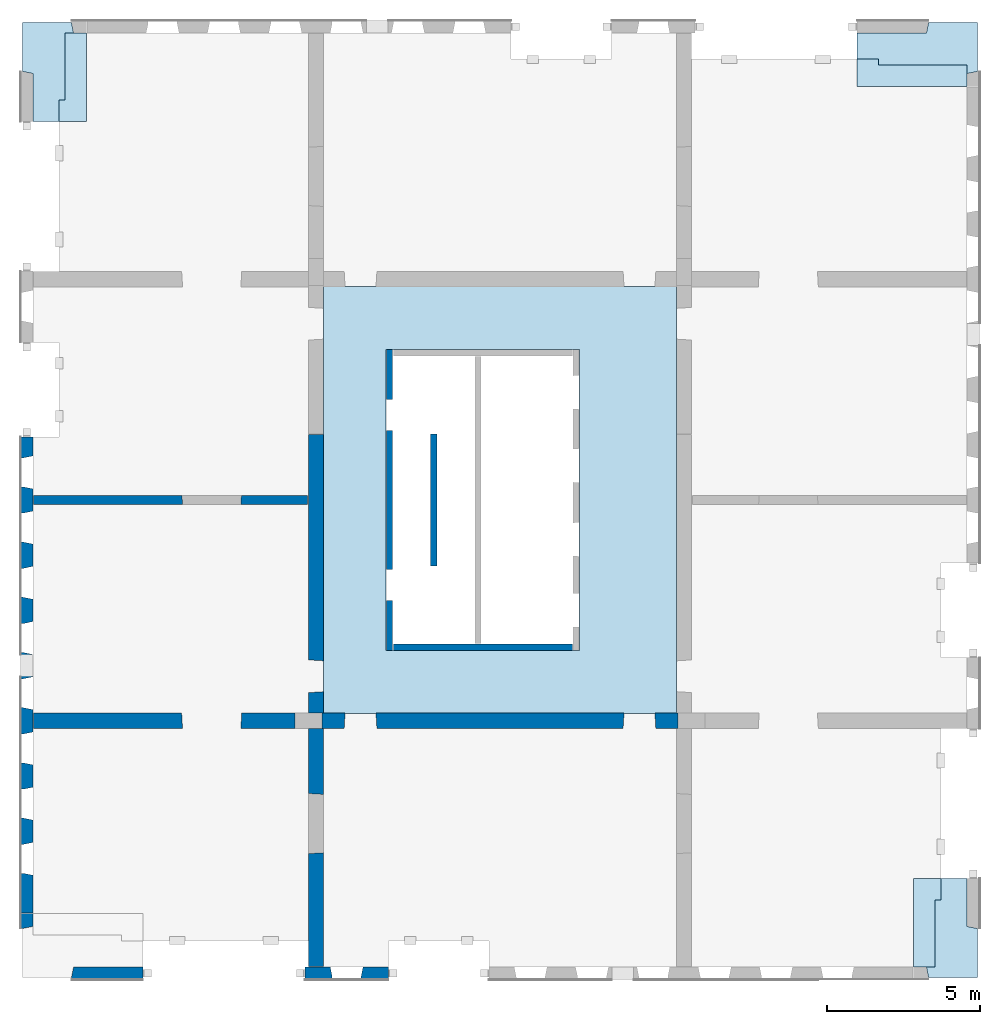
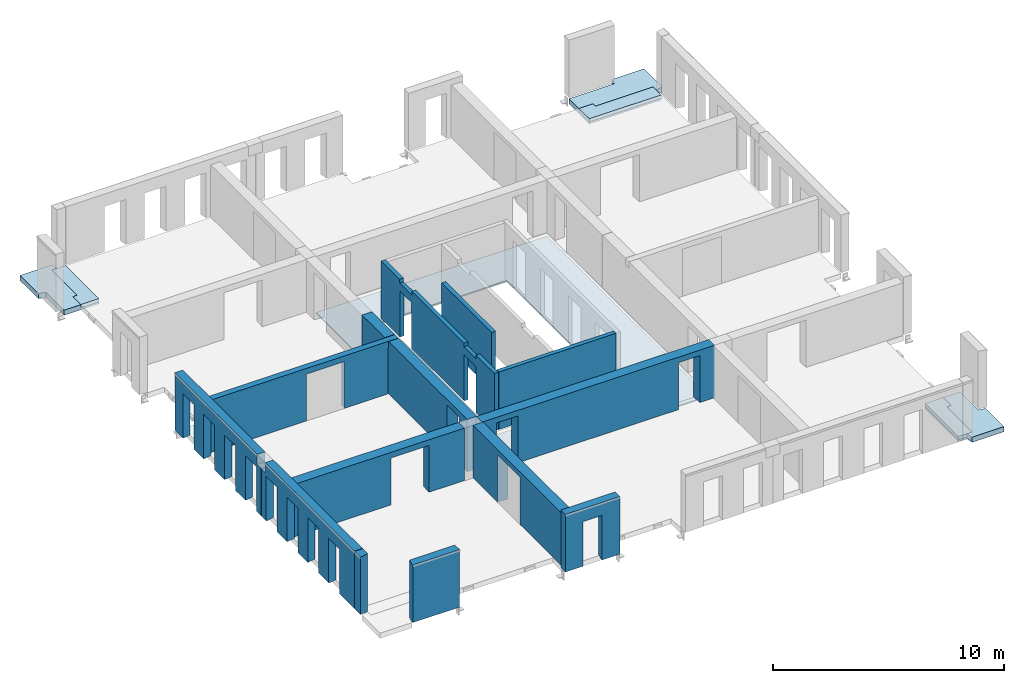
# One storey, part 2 of 5: 13 walls, 7 slabs, 26 openings.
"""IFC2X3 building model written with IfcOpenShell, lengths in millimetres."""

from ifc_helpers import new_model, entity, si_unit, converted_unit, derived_unit, direction, frame, frame_2d, origin, origin_2d_with_axis, place, context, subcontext, project, spatial, polyline, rectangle, outline, extrude, faceted_brep, material, layer, layer_set, layer_usage, type_object, element, save


model = new_model("IFC2X3")

# Units and contexts
model_context = context("Model", 3, precision=0.01, world=origin(), true_north=direction((6.12303176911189e-17, 1.0)))
body_context = subcontext(model_context, "Body", "Model", "MODEL_VIEW")
ifc_project = project(units=[si_unit("LENGTHUNIT", "METRE", prefix="MILLI"), si_unit("AREAUNIT", "SQUARE_METRE"), si_unit("VOLUMEUNIT", "CUBIC_METRE"), converted_unit("PLANEANGLEUNIT", "DEGREE", entity("IfcRatioMeasure", 0.0174532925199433), si_unit("PLANEANGLEUNIT", "RADIAN"), dimensions=[0, 0, 0, 0, 0, 0, 0]), si_unit("MASSUNIT", "GRAM", prefix="KILO"), derived_unit("MASSDENSITYUNIT", [(si_unit("MASSUNIT", "GRAM", prefix="KILO"), 1), (si_unit("LENGTHUNIT", "METRE"), -3)]), si_unit("TIMEUNIT", "SECOND"), si_unit("FREQUENCYUNIT", "HERTZ"), si_unit("THERMODYNAMICTEMPERATUREUNIT", "DEGREE_CELSIUS"), derived_unit("THERMALTRANSMITTANCEUNIT", [(si_unit("MASSUNIT", "GRAM", prefix="KILO"), 1), (si_unit("THERMODYNAMICTEMPERATUREUNIT", "KELVIN"), -1), (si_unit("TIMEUNIT", "SECOND"), -3)]), derived_unit("VOLUMETRICFLOWRATEUNIT", [(si_unit("LENGTHUNIT", "METRE"), 3), (si_unit("TIMEUNIT", "SECOND"), -1)]), si_unit("ELECTRICCURRENTUNIT", "AMPERE"), si_unit("ELECTRICVOLTAGEUNIT", "VOLT"), si_unit("POWERUNIT", "WATT"), si_unit("FORCEUNIT", "NEWTON", prefix="KILO"), si_unit("ILLUMINANCEUNIT", "LUX"), si_unit("LUMINOUSFLUXUNIT", "LUMEN"), si_unit("LUMINOUSINTENSITYUNIT", "CANDELA"), derived_unit("USERDEFINED", [(si_unit("MASSUNIT", "GRAM", prefix="KILO"), -1), (si_unit("LENGTHUNIT", "METRE"), -2), (si_unit("TIMEUNIT", "SECOND"), 3), (si_unit("LUMINOUSFLUXUNIT", "LUMEN"), 1)]), derived_unit("LINEARVELOCITYUNIT", [(si_unit("LENGTHUNIT", "METRE"), 1), (si_unit("TIMEUNIT", "SECOND"), -1)]), si_unit("PRESSUREUNIT", "PASCAL"), derived_unit("USERDEFINED", [(si_unit("LENGTHUNIT", "METRE"), -2), (si_unit("MASSUNIT", "GRAM", prefix="KILO"), 1), (si_unit("TIMEUNIT", "SECOND"), -2)])], contexts=[model_context])

# Site, building, storey
site_placement = place(None, origin())
site = spatial("IfcSite", under=ifc_project, at=site_placement, Name="Default", CompositionType="ELEMENT")
building_placement = place(site_placement, origin())
building = spatial("IfcBuilding", under=site, at=building_placement, Name="niet gebruiken", CompositionType="ELEMENT")
storey_placement = place(building_placement, frame((0.0, 0.0, 27180.0)))
storey = spatial("IfcBuildingStorey", under=building, at=storey_placement, Name="08 achtste verdieping", CompositionType="ELEMENT", Elevation=27180.0)

# Slabs
ifc_material_1 = material(Name="NLRS_f2_beton prefab")
ifc_layer_1 = layer(ifc_material_1, 270.0)
ifc_layer_set_1 = layer_set([ifc_layer_1], Name="Floor:NLRS_23.22_FL_beton prefab d=270 3D element_gen")
ifc_layer_usage_1 = layer_usage(ifc_layer_set_1, "AXIS3", "POSITIVE", 0.0)
slab_1_placement = place(storey_placement, origin())
element("IfcSlab", 1, at=slab_1_placement, inside=storey, material=ifc_layer_usage_1, Name="Floor:NLRS_23.22_FL_beton prefab d=270 3D element_gen", ObjectType="Floor:NLRS_23.22_FL_beton prefab d=270 3D element_gen", PredefinedType="LANDING", context=body_context, shape_type="SweptSolid", body=[
    extrude(outline(polyline([(-962.018416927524, -1072.98158307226), (1927.98158307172, -1072.98158307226), (1927.98158307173, 677.01841692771), (362.981583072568, 677.018416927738), (295.128918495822, 1010.01841692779), (-1295.01841692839, 1010.01841692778), (-1295.0184169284, -580.128918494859), (-962.018416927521, -647.981583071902), (-962.018416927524, -1072.98158307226)])), frame((156302.981583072, 3232.01841692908, -90.0), z_axis=(0.0, 0.0, -1.0), x_axis=(0.0, 1.0, 0.0)), (0.0, 0.0, 1.0), 269.999999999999),
])
ifc_layer_usage_2 = layer_usage(ifc_layer_set_1, "AXIS3", "POSITIVE", 0.0)
slab_2_placement = place(storey_placement, origin())
element("IfcSlab", 2, at=slab_2_placement, inside=storey, material=ifc_layer_usage_2, Name="Floor:NLRS_23.22_FL_beton prefab d=270 3D element_gen", ObjectType="Floor:NLRS_23.22_FL_beton prefab d=270 3D element_gen", PredefinedType="LANDING", context=body_context, shape_type="SweptSolid", body=[
    extrude(outline(polyline([(-295.128918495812, -1010.0184169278), (1295.0184169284, -1010.0184169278), (1295.01841692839, 580.128918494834), (962.018416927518, 647.981583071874), (962.018416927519, 1072.98158307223), (-1927.98158307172, 1072.98158307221), (-1927.98158307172, -677.018416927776), (-362.981583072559, -677.018416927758), (-295.128918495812, -1010.0184169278)])), frame((127197.018416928, 31767.9815830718, -90.0), z_axis=(0.0, 0.0, -1.0), x_axis=(0.0, 1.0, 0.0)), (0.0, 0.0, 1.0), 269.999999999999),
])
ifc_layer_usage_3 = layer_usage(ifc_layer_set_1, "AXIS3", "POSITIVE", 0.0)
slab_3_placement = place(storey_placement, origin())
element("IfcSlab", 3, at=slab_3_placement, inside=storey, material=ifc_layer_usage_3, Name="Floor:NLRS_23.22_FL_beton prefab d=270 3D element_gen", ObjectType="Floor:NLRS_23.22_FL_beton prefab d=270 3D element_gen", PredefinedType="LANDING", context=body_context, shape_type="SweptSolid", body=[
    extrude(outline(polyline([(-1072.981583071, -2452.9815830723), (677.018416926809, -2452.9815830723), (677.018416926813, -187.981583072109), (1010.01841692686, -120.12891849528), (1010.01841692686, 1470.01841692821), (-580.128918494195, 1470.01841692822), (-647.981583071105, 1137.01841692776), (-1072.981583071, 1137.01841692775), (-1072.981583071, -2452.9815830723)])), frame((155842.981583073, 32052.9815830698, -90.0), z_axis=(0.0, 0.0, -1.0), x_axis=(0.0, 1.0, 0.0)), (0.0, 0.0, 1.0), 269.999999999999),
])
ifc_material_2 = material(Name="NLRS_f2_beton ihwg")
ifc_layer_2 = layer(ifc_material_2, 170.0)
ifc_layer_set_2 = layer_set([ifc_layer_2], Name="Floor:NLRS_23.21_FL_beton ihwg d=170_gen")
ifc_layer_usage_4 = layer_usage(ifc_layer_set_2, "AXIS3", "POSITIVE", 0.0)
slab_4_placement = place(storey_placement, origin())
element("IfcSlab", 4, at=slab_4_placement, inside=storey, material=ifc_layer_usage_4, Name="Floor:NLRS_23.21_FL_beton ihwg d=170_gen", ObjectType="Floor:NLRS_23.21_FL_beton ihwg d=170_gen", PredefinedType="FLOOR", context=body_context, shape_type="SweptSolid", body=[
    extrude(outline(polyline([(-533.333333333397, -1430.0), (366.666666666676, -1430.0), (366.666666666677, -730.0), (166.666666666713, -730.0), (166.666666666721, 2160.0), (-533.333333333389, 2160.0), (-533.333333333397, -1430.0)])), frame((154820.0, 31513.3333333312, -90.0), z_axis=(0.0, 0.0, -1.0), x_axis=(0.0, 1.0, 0.0)), (0.0, 0.0, 1.0), 170.0),
])
ifc_layer_usage_5 = layer_usage(ifc_layer_set_2, "AXIS3", "POSITIVE", 0.0)
slab_5_placement = place(storey_placement, origin())
element("IfcSlab", 5, at=slab_5_placement, inside=storey, material=ifc_layer_usage_5, Name="Floor:NLRS_23.21_FL_beton ihwg d=170_gen", ObjectType="Floor:NLRS_23.21_FL_beton ihwg d=170_gen", PredefinedType="FLOOR", context=body_context, shape_type="SweptSolid", body=[
    extrude(outline(polyline([(-1693.33333333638, -533.333333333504), (1196.66666666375, -533.333333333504), (1196.66666666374, 366.666666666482), (496.666666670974, 366.666666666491), (496.666666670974, 166.666666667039), (-1693.33333333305, 166.66666666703), (-1693.33333333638, -533.333333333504)])), frame((155763.333333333, 3963.33333333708, -90.0), z_axis=(0.0, 0.0, -1.0), x_axis=(0.0, 1.0, 0.0)), (0.0, 0.0, 1.0), 170.0),
])
ifc_layer_usage_6 = layer_usage(ifc_layer_set_2, "AXIS3", "POSITIVE", 0.0)
slab_6_placement = place(storey_placement, origin())
element("IfcSlab", 6, at=slab_6_placement, inside=storey, material=ifc_layer_usage_6, Name="Floor:NLRS_23.21_FL_beton ihwg d=170_gen", ObjectType="Floor:NLRS_23.21_FL_beton ihwg d=170_gen", PredefinedType="FLOOR", context=body_context, shape_type="SweptSolid", body=[
    extrude(outline(polyline([(-1196.66666666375, -366.666666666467), (-496.666666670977, -366.666666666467), (-496.666666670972, -166.666666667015), (1693.33333333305, -166.666666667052), (1693.33333333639, 533.333333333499), (-1196.66666666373, 533.333333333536), (-1196.66666666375, -366.666666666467)])), frame((127736.666666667, 31036.6666666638, -90.0), z_axis=(0.0, 0.0, -1.0), x_axis=(0.0, 1.0, 0.0)), (0.0, 0.0, 1.0), 170.0),
])

# Slab, opening
ifc_layer_3 = layer(ifc_material_1, 60.0)
ifc_layer_set_3 = layer_set([ifc_layer_3], Name="Floor:NLRS_23.21_FL_breedplaat d=60_gen")
ifc_layer_usage_7 = layer_usage(ifc_layer_set_3, "AXIS3", "POSITIVE", 0.0)
slab_7_placement = place(storey_placement, frame((135990.0, 10540.0, -320.0)))
slab_7 = element("IfcSlab", 7, at=slab_7_placement, inside=storey, material=ifc_layer_usage_7, Name="Floor:NLRS_23.21_FL_breedplaat d=60_gen", ObjectType="Floor:NLRS_23.21_FL_breedplaat d=60_gen", PredefinedType="FLOOR", context=body_context, shape_type="SweptSolid", body=[
    extrude(rectangle(XDim=13919.9999999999, YDim=11520.0, at=frame_2d((0.0, 0.0), x_axis=(0.0, -1.0))), frame((5760.0, 6960.0, 60.0), z_axis=(0.0, 0.0, -1.0), x_axis=(-1.0, 0.0, 0.0)), (0.0, 0.0, 1.0), 59.9999999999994),
])
opening_1_placement = place(slab_7_placement, frame((5200.0, 6960.0, 60.0)))
element("IfcOpeningElement", 8, at=opening_1_placement, cuts=slab_7, Name="Floor:NLRS_23.21_FL_breedplaat d=60_gen:2", ObjectType="Opening", context=body_context, shape_type="SweptSolid", body=[
    extrude(rectangle(XDim=9820.0, YDim=6299.99999999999, at=origin_2d_with_axis()), frame((0.0, 0.0, 0.0), z_axis=(0.0, 0.0, -1.0), x_axis=(0.0, -1.0, 0.0)), (0.0, 0.0, 1.0), 59.9999999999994),
])

# Wall, openings
ifc_layer_4 = layer(ifc_material_1, 200.0)
ifc_layer_set_4 = layer_set([ifc_layer_4], Name="Basic Wall:NLRS_22.21_WA_beton prefab d=200_gen")
ifc_layer_usage_8 = layer_usage(ifc_layer_set_4, "AXIS2", "NEGATIVE", 100.0)
wall_type_1 = type_object("IfcWallType", Name="Basic Wall:NLRS_22.21_WA_beton prefab d=200_gen", PredefinedType="STANDARD", material=ifc_layer_set_4)
wall_1_placement = place(storey_placement, frame((138150.0, 22400.0, -50.0), z_axis=(0.0, 0.0, 1.0), x_axis=(0.0, -1.0, 0.0)))
wall_1 = element("IfcWallStandardCase", 9, at=wall_1_placement, inside=storey, type_object=wall_type_1, material=ifc_layer_usage_8, Name="Basic Wall:NLRS_22.21_WA_beton prefab d=200_gen", ObjectType="Basic Wall:NLRS_22.21_WA_beton prefab d=200_gen", context=body_context, shape_type="SweptSolid", body=[
    extrude(rectangle(XDim=9800.0, YDim=199.999999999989, at=frame_2d((4900.0, 3.76587649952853e-13), x_axis=(-1.0, 0.0))), origin(), (0.0, 0.0, 1.0), 3039.99999999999),
])
opening_2_placement = place(wall_1_placement, origin())
element("IfcOpeningElement", 10, at=opening_2_placement, cuts=wall_1, Name="Basic Wall:NLRS_22.21_WA_beton prefab d=200_gen", ObjectType="Opening", context=body_context, shape_type="SweptSolid", body=[
    extrude(rectangle(XDim=199.999999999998, YDim=1044.0, at=origin_2d_with_axis()), frame((7672.0, -100.0, 2940.0), z_axis=(0.0, 1.0, 0.0), x_axis=(0.0, 0.0, -1.0)), (0.0, 0.0, 1.0), 199.999999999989),
])
opening_3_placement = place(wall_1_placement, origin())
element("IfcOpeningElement", 11, at=opening_3_placement, cuts=wall_1, Name="Basic Wall:NLRS_22.21_WA_beton prefab d=200_gen", ObjectType="Opening", context=body_context, shape_type="SweptSolid", body=[
    extrude(rectangle(XDim=199.999999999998, YDim=1044.0, at=frame_2d((0.0, 2.1600499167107e-12), x_axis=(1.0, 0.0))), frame((2128.0, -100.0, 2940.0), z_axis=(0.0, 1.0, 0.0), x_axis=(0.0, 0.0, -1.0)), (0.0, 0.0, 1.0), 199.999999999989),
])
opening_4_placement = place(wall_1_placement, origin())
element("IfcOpeningElement", 12, at=opening_4_placement, cuts=wall_1, Name="Basic Wall:NLRS_22.21_WA_beton prefab d=200_gen", ObjectType="Opening", context=body_context, shape_type="SweptSolid", body=[
    extrude(rectangle(XDim=2435.00000000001, YDim=1015.99999999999, at=frame_2d((0.0, 1.10844666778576e-12), x_axis=(1.0, 0.0))), frame((7672.0, -100.0, 1217.50000000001), z_axis=(0.0, 1.0, 0.0), x_axis=(0.0, 0.0, -1.0)), (0.0, 0.0, 1.0), 199.999999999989),
])
opening_5_placement = place(wall_1_placement, origin())
element("IfcOpeningElement", 13, at=opening_5_placement, cuts=wall_1, Name="Basic Wall:NLRS_22.21_WA_beton prefab d=200_gen", ObjectType="Opening", context=body_context, shape_type="SweptSolid", body=[
    extrude(rectangle(XDim=2435.00000000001, YDim=1015.99999999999, at=frame_2d((0.0, -2.18847162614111e-12), x_axis=(1.0, 0.0))), frame((2128.0, -100.0, 1217.50000000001), z_axis=(0.0, 1.0, 0.0), x_axis=(0.0, 0.0, -1.0)), (0.0, 0.0, 1.0), 199.999999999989),
])

# Walls
ifc_layer_usage_9 = layer_usage(ifc_layer_set_4, "AXIS2", "NEGATIVE", 100.0)
wall_2_placement = place(storey_placement, frame((139590.0, 19660.0, -50.0), z_axis=(0.0, 0.0, 1.0), x_axis=(0.0, -1.0, 0.0)))
element("IfcWallStandardCase", 14, at=wall_2_placement, inside=storey, type_object=wall_type_1, material=ifc_layer_usage_9, Name="Basic Wall:NLRS_22.21_WA_beton prefab d=200_gen", ObjectType="Basic Wall:NLRS_22.21_WA_beton prefab d=200_gen", context=body_context, shape_type="SweptSolid", body=[
    extrude(rectangle(XDim=4320.00000000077, YDim=199.999999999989, at=frame_2d((2160.00000000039, 0.0), x_axis=(-1.0, 0.0))), origin(), (0.0, 0.0, 1.0), 3039.99999999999),
])
ifc_layer_usage_10 = layer_usage(ifc_layer_set_4, "AXIS2", "NEGATIVE", 100.0)
wall_3_placement = place(storey_placement, frame((138270.0, 12700.0, -50.0)))
element("IfcWallStandardCase", 15, at=wall_3_placement, inside=storey, type_object=wall_type_1, material=ifc_layer_usage_10, Name="Basic Wall:NLRS_22.21_WA_beton prefab d=200_gen", ObjectType="Basic Wall:NLRS_22.21_WA_beton prefab d=200_gen", context=body_context, shape_type="SweptSolid", body=[
    extrude(rectangle(XDim=5839.99999999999, YDim=199.999999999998, at=frame_2d((2919.99999999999, -6.82121026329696e-13), x_axis=(-1.0, 0.0))), origin(), (0.0, 0.0, 1.0), 3039.99999999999),
])

# Wall, openings
ifc_layer_5 = layer(ifc_material_1, 300.0)
ifc_layer_set_5 = layer_set([ifc_layer_5], Name="Basic Wall:NLRS_22.21_WA_beton prefab d=300_gen")
ifc_layer_usage_11 = layer_usage(ifc_layer_set_5, "AXIS2", "NEGATIVE", 150.0)
wall_type_2 = type_object("IfcWallType", Name="Basic Wall:NLRS_22.21_WA_beton prefab d=300_gen", PredefinedType="STANDARD", material=ifc_layer_set_5)
wall_4_placement = place(storey_placement, frame((126540.0, 17500.0, -70.0)))
wall_4 = element("IfcWallStandardCase", 16, at=wall_4_placement, inside=storey, type_object=wall_type_2, material=ifc_layer_usage_11, Name="Basic Wall:NLRS_22.21_WA_beton prefab d=300_gen", ObjectType="Basic Wall:NLRS_22.21_WA_beton prefab d=300_gen", context=body_context, shape_type="SweptSolid", body=[
    extrude(rectangle(XDim=9459.99999999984, YDim=300.000000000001, at=frame_2d((4729.99999999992, -1.4210854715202e-14), x_axis=(-1.0, 0.0))), origin(), (0.0, 0.0, 1.0), 2770.0),
])
opening_6_placement = place(wall_4_placement, frame((4842.0, -150.0, 0.0)))
element("IfcOpeningElement", 17, at=opening_6_placement, cuts=wall_4, Name="Basic Wall:NLRS_22.21_WA_beton prefab d=300_gen", ObjectType="Opening", context=body_context, shape_type="Brep", body=[
    faceted_brep([(1918.0, 0.0, 2470.0), (18.0, 0.0, 2470.0), (18.0, 0.0, 0.0), (1918.0, 0.0, 0.0), (1936.0, 300.0, 2488.0), (1936.0, 300.0, 0.0), (0.0, 300.0, 0.0), (0.0, 300.0, 2488.0)], [[[0, 1, 2, 3]], [[4, 5, 6, 7]], [[4, 7, 1, 0]], [[7, 6, 2, 1]], [[6, 5, 3, 2]], [[5, 4, 0, 3]]]),
])
opening_7_placement = place(wall_4_placement, origin())
element("IfcOpeningElement", 18, at=opening_7_placement, cuts=wall_4, Name="Basic Wall:NLRS_22.21_WA_beton prefab d=300_gen", ObjectType="Opening", context=body_context, shape_type="SweptSolid", body=[
    extrude(rectangle(XDim=2440.0, YDim=520.000000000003, at=frame_2d((-8.64019966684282e-12, -2.1600499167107e-12), x_axis=(0.0, 1.0))), frame((9200.0, 150.0, 1220.0), z_axis=(0.0, -1.0, 0.0), x_axis=(1.0, 0.0, 0.0)), (0.0, 0.0, 1.0), 300.0),
])

# Wall, opening
ifc_layer_6 = layer(ifc_material_1, 400.0)
ifc_layer_set_6 = layer_set([ifc_layer_6], Name="Basic Wall:NLRS_21.21_WA_beton prefab d=400/420_gen")
ifc_layer_usage_12 = layer_usage(ifc_layer_set_6, "AXIS2", "NEGATIVE", 200.0)
wall_type_3 = type_object("IfcWallType", Name="Basic Wall:NLRS_21.21_WA_beton prefab d=400/420_gen", PredefinedType="STANDARD", material=ifc_layer_set_6)
wall_5_placement = place(storey_placement, frame((130110.0, 2070.0, -50.0), z_axis=(0.0, 0.0, 1.0), x_axis=(-1.0, 0.0, 0.0)))
wall_5 = element("IfcWallStandardCase", 19, at=wall_5_placement, inside=storey, type_object=wall_type_3, material=ifc_layer_usage_12, Name="Basic Wall:NLRS_21.21_WA_beton prefab d=400/420_gen", ObjectType="Basic Wall:NLRS_21.21_WA_beton prefab d=400/420_gen", context=body_context, shape_type="SweptSolid", body=[
    extrude(rectangle(XDim=2330.00000000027, YDim=400.0, at=frame_2d((1165.00000000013, -4.2632564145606e-14), x_axis=(-1.0, 0.0))), origin(), (0.0, 0.0, 1.0), 3040.0),
])
opening_8_placement = place(wall_5_placement, frame((2330.0, 119.0, 0.0)))
element("IfcOpeningElement", 20, at=opening_8_placement, cuts=wall_5, Name="Basic Wall:NLRS_21.21_WA_beton prefab d=400/420_gen", ObjectType="Opening", context=body_context, shape_type="Brep", body=[
    faceted_brep([(0.0, -319.0, 3040.0), (0.0, 0.0, 3040.0), (-65.0, -319.0, 3040.0), (0.0, -319.0, 0.0), (-65.0, -319.0, 0.0), (0.0, 0.0, 0.0)], [[[0, 1, 2]], [[3, 4, 5]], [[2, 4, 3, 0]], [[0, 3, 5, 1]], [[1, 5, 4, 2]]]),
])

ifc_layer_usage_13 = layer_usage(ifc_layer_set_6, "AXIS2", "NEGATIVE", 200.0)
wall_6_placement = place(storey_placement, frame((126320.0, 3530.0, -50.0), z_axis=(0.0, 0.0, 1.0), x_axis=(0.0, 1.0, 0.0)))
wall_6 = element("IfcWallStandardCase", 21, at=wall_6_placement, inside=storey, type_object=wall_type_3, material=ifc_layer_usage_13, Name="Basic Wall:NLRS_21.21_WA_beton prefab d=400/420_gen", ObjectType="Basic Wall:NLRS_21.21_WA_beton prefab d=400/420_gen", context=body_context, shape_type="SweptSolid", body=[
    extrude(rectangle(XDim=490.000000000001, YDim=400.000000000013, at=frame_2d((245.0, -4.2490455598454e-12), x_axis=(-1.0, 0.0))), origin(), (0.0, 0.0, 1.0), 3040.0),
])
opening_9_placement = place(wall_6_placement, frame((0.0, 119.0, 0.0)))
element("IfcOpeningElement", 22, at=opening_9_placement, cuts=wall_6, Name="Basic Wall:NLRS_21.21_WA_beton prefab d=400/420_gen", ObjectType="Opening", context=body_context, shape_type="Brep", body=[
    faceted_brep([(0.0, -319.0, 3040.0), (65.0, -319.0, 3040.0), (0.0, 0.0, 3040.0), (0.0, -319.0, 0.0), (0.0, 0.0, 0.0), (65.0, -319.0, 0.0)], [[[0, 1, 2]], [[3, 4, 5]], [[1, 0, 3, 5]], [[0, 2, 4, 3]], [[2, 1, 5, 4]]]),
])

# Wall, openings
ifc_layer_usage_14 = layer_usage(ifc_layer_set_6, "AXIS2", "NEGATIVE", 200.0)
wall_7_placement = place(storey_placement, frame((126320.0, 4040.0, -50.0), z_axis=(0.0, 0.0, 1.0), x_axis=(0.0, 1.0, 0.0)))
wall_7 = element("IfcWallStandardCase", 23, at=wall_7_placement, inside=storey, type_object=wall_type_3, material=ifc_layer_usage_14, Name="Basic Wall:NLRS_21.21_WA_beton prefab d=400/420_gen", ObjectType="Basic Wall:NLRS_21.21_WA_beton prefab d=400/420_gen", context=body_context, shape_type="SweptSolid", body=[
    extrude(rectangle(XDim=8049.99999999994, YDim=400.000000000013, at=frame_2d((4024.99999999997, 6.19593265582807e-12), x_axis=(-1.0, 0.0))), origin(), (0.0, 0.0, 1.0), 3040.0),
])
opening_10_placement = place(wall_7_placement, frame((1225.0, 200.0, -20.0)))
element("IfcOpeningElement", 24, at=opening_10_placement, cuts=wall_7, Name="Basic Wall:NLRS_21.21_WA_beton prefab d=400/420_gen", ObjectType="Opening", context=body_context, shape_type="Brep", body=[
    faceted_brep([(0.0, -400.0, 2405.0), (0.0, -400.0, 0.0), (1070.0, -400.0, 0.0), (1070.0, -400.0, 2405.0), (1005.0, -81.0, 2370.0), (65.0, -81.0, 2370.0), (1005.0, -81.0, 0.0), (65.0, -81.0, 0.0), (65.0, 0.0, 0.0), (1005.0, 0.0, 0.0), (65.0, 0.0, 2370.0), (1005.0, 0.0, 2370.0)], [[[0, 1, 2, 3]], [[3, 4, 5, 0]], [[2, 6, 4, 3]], [[1, 7, 8, 9, 6, 2]], [[0, 5, 7, 1]], [[10, 11, 9, 8]], [[10, 5, 4, 11]], [[11, 4, 6, 9]], [[8, 7, 5, 10]]]),
])
opening_11_placement = place(wall_7_placement, frame((3025.0, 200.0, -20.0)))
element("IfcOpeningElement", 25, at=opening_11_placement, cuts=wall_7, Name="Basic Wall:NLRS_21.21_WA_beton prefab d=400/420_gen", ObjectType="Opening", context=body_context, shape_type="Brep", body=[
    faceted_brep([(0.0, -400.0, 2405.0), (0.0, -400.0, 0.0), (1070.0, -400.0, 0.0), (1070.0, -400.0, 2405.0), (1005.0, -81.0, 2370.0), (65.0, -81.0, 2370.0), (1005.0, -81.0, 0.0), (65.0, -81.0, 0.0), (65.0, 0.0, 0.0), (1005.0, 0.0, 0.0), (65.0, 0.0, 2370.0), (1005.0, 0.0, 2370.0)], [[[0, 1, 2, 3]], [[3, 4, 5, 0]], [[2, 6, 4, 3]], [[1, 7, 8, 9, 6, 2]], [[0, 5, 7, 1]], [[10, 11, 9, 8]], [[10, 5, 4, 11]], [[11, 4, 6, 9]], [[8, 7, 5, 10]]]),
])
opening_12_placement = place(wall_7_placement, frame((4825.0, 200.0, -20.0)))
element("IfcOpeningElement", 26, at=opening_12_placement, cuts=wall_7, Name="Basic Wall:NLRS_21.21_WA_beton prefab d=400/420_gen", ObjectType="Opening", context=body_context, shape_type="Brep", body=[
    faceted_brep([(0.0, -400.0, 2405.0), (0.0, -400.0, 0.0), (1070.0, -400.0, 0.0), (1070.0, -400.0, 2405.0), (1005.0, -81.0, 2370.0), (65.0, -81.0, 2370.0), (1005.0, -81.0, 0.0), (65.0, -81.0, 0.0), (65.0, 0.0, 0.0), (1005.0, 0.0, 0.0), (65.0, 0.0, 2370.0), (1005.0, 0.0, 2370.0)], [[[0, 1, 2, 3]], [[3, 4, 5, 0]], [[2, 6, 4, 3]], [[1, 7, 8, 9, 6, 2]], [[0, 5, 7, 1]], [[10, 11, 9, 8]], [[10, 5, 4, 11]], [[11, 4, 6, 9]], [[8, 7, 5, 10]]]),
])
opening_13_placement = place(wall_7_placement, frame((6625.0, 200.0, -20.0)))
element("IfcOpeningElement", 27, at=opening_13_placement, cuts=wall_7, Name="Basic Wall:NLRS_21.21_WA_beton prefab d=400/420_gen", ObjectType="Opening", context=body_context, shape_type="Brep", body=[
    faceted_brep([(0.0, -400.0, 2405.0), (0.0, -400.0, 0.0), (1070.0, -400.0, 0.0), (1070.0, -400.0, 2405.0), (1005.0, -81.0, 2370.0), (65.0, -81.0, 2370.0), (1005.0, -81.0, 0.0), (65.0, -81.0, 0.0), (65.0, 0.0, 0.0), (1005.0, 0.0, 0.0), (65.0, 0.0, 2370.0), (1005.0, 0.0, 2370.0)], [[[0, 1, 2, 3]], [[3, 4, 5, 0]], [[2, 6, 4, 3]], [[1, 7, 8, 9, 6, 2]], [[0, 5, 7, 1]], [[10, 11, 9, 8]], [[10, 5, 4, 11]], [[11, 4, 6, 9]], [[8, 7, 5, 10]]]),
])
opening_14_placement = place(wall_7_placement, origin())
element("IfcOpeningElement", 28, at=opening_14_placement, cuts=wall_7, Name="Basic Wall:NLRS_21.21_WA_beton prefab d=400/420_gen", ObjectType="Opening", context=body_context, shape_type="SweptSolid", body=[
    extrude(rectangle(XDim=535.0, YDim=344.999999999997, at=frame_2d((0.0, 1.08002495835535e-12), x_axis=(1.0, 0.0))), frame((7877.49999999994, 200.0, 2772.5), z_axis=(0.0, -1.0, 0.0), x_axis=(0.0, 0.0, 1.0)), (0.0, 0.0, 1.0), 400.0),
])

# Wall, opening
ifc_layer_usage_15 = layer_usage(ifc_layer_set_6, "AXIS2", "NEGATIVE", 200.0)
wall_8_placement = place(storey_placement, frame((138110.0, 2070.0, -50.0), z_axis=(0.0, 0.0, 1.0), x_axis=(-1.0, 0.0, 0.0)))
wall_8 = element("IfcWallStandardCase", 29, at=wall_8_placement, inside=storey, type_object=wall_type_3, material=ifc_layer_usage_15, Name="Basic Wall:NLRS_21.21_WA_beton prefab d=400/420_gen", ObjectType="Basic Wall:NLRS_21.21_WA_beton prefab d=400/420_gen", context=body_context, shape_type="SweptSolid", body=[
    extrude(rectangle(XDim=2720.00000000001, YDim=400.0, at=frame_2d((1360.0, -7.105427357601e-14), x_axis=(-1.0, 0.0))), origin(), (0.0, 0.0, 1.0), 3040.0),
])
opening_15_placement = place(wall_8_placement, frame((1895.0, 200.0, -20.0)))
element("IfcOpeningElement", 30, at=opening_15_placement, cuts=wall_8, Name="Basic Wall:NLRS_21.21_WA_beton prefab d=400/420_gen", ObjectType="Opening", context=body_context, shape_type="Brep", body=[
    faceted_brep([(-1070.0, -400.0, 2405.0), (-1070.0, -400.0, 0.0), (0.0, -400.0, 0.0), (0.0, -400.0, 2405.0), (-65.0, -81.0, 2370.0), (-1005.0, -81.0, 2370.0), (-65.0, -81.0, 0.0), (-1005.0, -81.0, 0.0), (-1005.0, 0.0, 0.0), (-65.0, 0.0, 0.0), (-1005.0, 0.0, 2370.0), (-65.0, 0.0, 2370.0)], [[[0, 1, 2, 3]], [[3, 4, 5, 0]], [[2, 6, 4, 3]], [[1, 7, 8, 9, 6, 2]], [[0, 5, 7, 1]], [[10, 11, 9, 8]], [[10, 5, 4, 11]], [[11, 4, 6, 9]], [[8, 7, 5, 10]]]),
])

# Wall, openings
ifc_layer_usage_16 = layer_usage(ifc_layer_set_6, "AXIS2", "NEGATIVE", 200.0)
wall_9_placement = place(storey_placement, frame((126320.0, 12110.0, -50.0), z_axis=(0.0, 0.0, 1.0), x_axis=(0.0, 1.0, 0.0)))
wall_9 = element("IfcWallStandardCase", 31, at=wall_9_placement, inside=storey, type_object=wall_type_3, material=ifc_layer_usage_16, Name="Basic Wall:NLRS_21.21_WA_beton prefab d=400/420_gen", ObjectType="Basic Wall:NLRS_21.21_WA_beton prefab d=400/420_gen", context=body_context, shape_type="SweptSolid", body=[
    extrude(rectangle(XDim=7450.00000000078, YDim=400.000000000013, at=frame_2d((3725.00000000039, 3.15480974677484e-12), x_axis=(-1.0, 0.0))), origin(), (0.0, 0.0, 1.0), 3040.0),
])
opening_16_placement = place(wall_9_placement, frame((5755.0, 200.0, -20.0)))
element("IfcOpeningElement", 32, at=opening_16_placement, cuts=wall_9, Name="Basic Wall:NLRS_21.21_WA_beton prefab d=400/420_gen", ObjectType="Opening", context=body_context, shape_type="Brep", body=[
    faceted_brep([(0.0, -400.0, 2405.0), (0.0, -400.0, 0.0), (1070.0, -400.0, 0.0), (1070.0, -400.0, 2405.0), (1005.0, -81.0, 2370.0), (65.0, -81.0, 2370.0), (1005.0, -81.0, 0.0), (65.0, -81.0, 0.0), (65.0, 0.0, 0.0), (1005.0, 0.0, 0.0), (65.0, 0.0, 2370.0), (1005.0, 0.0, 2370.0)], [[[0, 1, 2, 3]], [[3, 4, 5, 0]], [[2, 6, 4, 3]], [[1, 7, 8, 9, 6, 2]], [[0, 5, 7, 1]], [[10, 11, 9, 8]], [[10, 5, 4, 11]], [[11, 4, 6, 9]], [[8, 7, 5, 10]]]),
])
opening_17_placement = place(wall_9_placement, frame((2155.0, 200.0, -20.0)))
element("IfcOpeningElement", 33, at=opening_17_placement, cuts=wall_9, Name="Basic Wall:NLRS_21.21_WA_beton prefab d=400/420_gen", ObjectType="Opening", context=body_context, shape_type="Brep", body=[
    faceted_brep([(0.0, -400.0, 2405.0), (0.0, -400.0, 0.0), (1070.0, -400.0, 0.0), (1070.0, -400.0, 2405.0), (1005.0, -81.0, 2370.0), (65.0, -81.0, 2370.0), (1005.0, -81.0, 0.0), (65.0, -81.0, 0.0), (65.0, 0.0, 0.0), (1005.0, 0.0, 0.0), (65.0, 0.0, 2370.0), (1005.0, 0.0, 2370.0)], [[[0, 1, 2, 3]], [[3, 4, 5, 0]], [[2, 6, 4, 3]], [[1, 7, 8, 9, 6, 2]], [[0, 5, 7, 1]], [[10, 11, 9, 8]], [[10, 5, 4, 11]], [[11, 4, 6, 9]], [[8, 7, 5, 10]]]),
])
opening_18_placement = place(wall_9_placement, frame((355.0, 200.0, -20.0)))
element("IfcOpeningElement", 34, at=opening_18_placement, cuts=wall_9, Name="Basic Wall:NLRS_21.21_WA_beton prefab d=400/420_gen", ObjectType="Opening", context=body_context, shape_type="Brep", body=[
    faceted_brep([(0.0, -400.0, 2405.0), (0.0, -400.0, 0.0), (1070.0, -400.0, 0.0), (1070.0, -400.0, 2405.0), (1005.0, -81.0, 2370.0), (65.0, -81.0, 2370.0), (1005.0, -81.0, 0.0), (65.0, -81.0, 0.0), (65.0, 0.0, 0.0), (1005.0, 0.0, 0.0), (65.0, 0.0, 2370.0), (1005.0, 0.0, 2370.0)], [[[0, 1, 2, 3]], [[3, 4, 5, 0]], [[2, 6, 4, 3]], [[1, 7, 8, 9, 6, 2]], [[0, 5, 7, 1]], [[10, 11, 9, 8]], [[10, 5, 4, 11]], [[11, 4, 6, 9]], [[8, 7, 5, 10]]]),
])
opening_19_placement = place(wall_9_placement, frame((3955.0, 200.0, -20.0)))
element("IfcOpeningElement", 35, at=opening_19_placement, cuts=wall_9, Name="Basic Wall:NLRS_21.21_WA_beton prefab d=400/420_gen", ObjectType="Opening", context=body_context, shape_type="Brep", body=[
    faceted_brep([(0.0, -400.0, 2405.0), (0.0, -400.0, 0.0), (1070.0, -400.0, 0.0), (1070.0, -400.0, 2405.0), (1005.0, -81.0, 2370.0), (65.0, -81.0, 2370.0), (1005.0, -81.0, 0.0), (65.0, -81.0, 0.0), (65.0, 0.0, 0.0), (1005.0, 0.0, 0.0), (65.0, 0.0, 2370.0), (1005.0, 0.0, 2370.0)], [[[0, 1, 2, 3]], [[3, 4, 5, 0]], [[2, 6, 4, 3]], [[1, 7, 8, 9, 6, 2]], [[0, 5, 7, 1]], [[10, 11, 9, 8]], [[10, 5, 4, 11]], [[11, 4, 6, 9]], [[8, 7, 5, 10]]]),
])
opening_20_placement = place(wall_9_placement, origin())
element("IfcOpeningElement", 36, at=opening_20_placement, cuts=wall_9, Name="Basic Wall:NLRS_21.21_WA_beton prefab d=400/420_gen", ObjectType="Opening", context=body_context, shape_type="SweptSolid", body=[
    extrude(rectangle(XDim=535.0, YDim=344.999999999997, at=frame_2d((1.08002495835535e-12, 0.0), x_axis=(0.0, 1.0))), frame((172.5, 200.0, 2772.5), z_axis=(0.0, -1.0, 0.0), x_axis=(-1.0, 0.0, 0.0)), (0.0, 0.0, 1.0), 400.0),
])

ifc_layer_7 = layer(ifc_material_1, 500.0)
ifc_layer_set_7 = layer_set([ifc_layer_7], Name="Basic Wall:NLRS_22.21_WA_beton prefab d=500_gen")
ifc_layer_usage_17 = layer_usage(ifc_layer_set_7, "AXIS2", "NEGATIVE", 250.0)
wall_type_4 = type_object("IfcWallType", Name="Basic Wall:NLRS_22.21_WA_beton prefab d=500_gen", PredefinedType="STANDARD", material=ifc_layer_set_7)
wall_10_placement = place(storey_placement, frame((135950.003540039, 10300.0, -70.0)))
wall_10 = element("IfcWallStandardCase", 37, at=wall_10_placement, inside=storey, type_object=wall_type_4, material=ifc_layer_usage_17, Name="Basic Wall:NLRS_22.21_WA_beton prefab d=500_gen", ObjectType="Basic Wall:NLRS_22.21_WA_beton prefab d=500_gen", context=body_context, shape_type="SweptSolid", body=[
    extrude(rectangle(XDim=11599.9964599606, YDim=499.999999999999, at=frame_2d((5799.99822998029, 1.4210854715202e-13), x_axis=(-1.0, 0.0))), origin(), (0.0, 0.0, 1.0), 2770.00000000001),
])
opening_21_placement = place(wall_10_placement, frame((719.996459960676, -250.0, 0.0)))
element("IfcOpeningElement", 38, at=opening_21_placement, cuts=wall_10, Name="Basic Wall:NLRS_22.21_WA_beton prefab d=500_gen", ObjectType="Opening", context=body_context, shape_type="Brep", body=[
    faceted_brep([(0.0, 0.0, 2478.0), (30.0, 500.0, 2448.0), (30.0, 500.0, 0.0), (0.0, 0.0, 0.0), (1036.0, 500.0, 0.0), (1066.0, 0.0, 0.0), (1036.0, 500.0, 2448.0), (1066.0, 0.0, 2478.0)], [[[0, 1, 2, 3]], [[3, 2, 4, 5]], [[6, 4, 2, 1]], [[7, 0, 3, 5]], [[7, 6, 1, 0]], [[5, 4, 6, 7]]]),
])
opening_22_placement = place(wall_10_placement, frame((9813.99645996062, -250.0, 0.0)))
element("IfcOpeningElement", 39, at=opening_22_placement, cuts=wall_10, Name="Basic Wall:NLRS_22.21_WA_beton prefab d=500_gen", ObjectType="Opening", context=body_context, shape_type="Brep", body=[
    faceted_brep([(0.0, 0.0, 2478.0), (30.0, 500.0, 2448.0), (30.0, 500.0, 0.0), (0.0, 0.0, 0.0), (1036.0, 500.0, 0.0), (1066.0, 0.0, 0.0), (1036.0, 500.0, 2448.0), (1066.0, 0.0, 2478.0)], [[[0, 1, 2, 3]], [[3, 2, 4, 5]], [[6, 4, 2, 1]], [[7, 0, 3, 5]], [[7, 6, 1, 0]], [[5, 4, 6, 7]]]),
])

ifc_layer_usage_18 = layer_usage(ifc_layer_set_7, "AXIS2", "NEGATIVE", 250.0)
wall_11_placement = place(storey_placement, frame((135750.0, 19640.0, -70.0), z_axis=(0.0, 0.0, 1.0), x_axis=(0.0, -1.0, 0.0)))
wall_11 = element("IfcWallStandardCase", 40, at=wall_11_placement, inside=storey, type_object=wall_type_4, material=ifc_layer_usage_18, Name="Basic Wall:NLRS_22.21_WA_beton prefab d=500_gen", ObjectType="Basic Wall:NLRS_22.21_WA_beton prefab d=500_gen", context=body_context, shape_type="SweptSolid", body=[
    extrude(rectangle(XDim=9089.98844925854, YDim=499.99999999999, at=frame_2d((4544.99422462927, -7.105427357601e-14), x_axis=(-1.0, 0.0))), origin(), (0.0, 0.0, 1.0), 2770.00000000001),
])
opening_23_placement = place(wall_11_placement, frame((8420.0, -250.0, 0.0)))
element("IfcOpeningElement", 41, at=opening_23_placement, cuts=wall_11, Name="Basic Wall:NLRS_22.21_WA_beton prefab d=500_gen", ObjectType="Opening", context=body_context, shape_type="Brep", body=[
    faceted_brep([(-1066.0, 0.0, 2478.0), (-1036.0, 500.0, 2448.0), (-1036.0, 500.0, 0.0), (-1066.0, 0.0, 0.0), (-30.0, 500.0, 0.0), (0.0, 0.0, 0.0), (-30.0, 500.0, 2448.0), (0.0, 0.0, 2478.0)], [[[0, 1, 2, 3]], [[3, 2, 4, 5]], [[6, 4, 2, 1]], [[7, 0, 3, 5]], [[7, 6, 1, 0]], [[5, 4, 6, 7]]]),
])
opening_24_placement = place(wall_11_placement, origin())
element("IfcOpeningElement", 42, at=opening_24_placement, cuts=wall_11, Name="Basic Wall:NLRS_22.21_WA_beton prefab d=500_gen", ObjectType="Opening", context=body_context, shape_type="SweptSolid", body=[
    extrude(rectangle(XDim=350.000000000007, YDim=339.999999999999, at=frame_2d((-1.08002495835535e-12, 0.0), x_axis=(0.0, 1.0))), frame((2140.0, 250.0, 2595.0), z_axis=(0.0, -1.0, 0.0), x_axis=(-1.0, 0.0, 0.0)), (0.0, 0.0, 1.0), 500.0),
])

# Wall, opening
ifc_layer_usage_19 = layer_usage(ifc_layer_set_7, "AXIS2", "NEGATIVE", 250.0)
wall_12_placement = place(storey_placement, frame((135750.0, 10050.0115507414, -70.0), z_axis=(0.0, 0.0, 1.0), x_axis=(0.0, -1.0, 0.0)))
wall_12 = element("IfcWallStandardCase", 43, at=wall_12_placement, inside=storey, type_object=wall_type_4, material=ifc_layer_usage_19, Name="Basic Wall:NLRS_22.21_WA_beton prefab d=500_gen", ObjectType="Basic Wall:NLRS_22.21_WA_beton prefab d=500_gen", context=body_context, shape_type="SweptSolid", body=[
    extrude(rectangle(XDim=7760.01155073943, YDim=499.99999999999, at=frame_2d((3880.00577536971, -1.08002495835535e-12), x_axis=(-1.0, 0.0))), origin(), (0.0, 0.0, 1.0), 2770.0),
])
opening_25_placement = place(wall_12_placement, frame((4080.0115507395, -250.0, 0.0)))
element("IfcOpeningElement", 44, at=opening_25_placement, cuts=wall_12, Name="Basic Wall:NLRS_22.21_WA_beton prefab d=500_gen", ObjectType="Opening", context=body_context, shape_type="Brep", body=[
    faceted_brep([(-30.0, 500.0, 2470.0), (-30.0, 500.0, 0.0), (-1930.0, 500.0, 0.0), (-1930.0, 500.0, 2470.0), (0.0, 0.0, 2500.0), (-1960.0, 0.0, 2500.0), (-1960.0, 0.0, 0.0), (0.0, 0.0, 0.0)], [[[0, 1, 2, 3]], [[4, 5, 6, 7]], [[4, 0, 3, 5]], [[5, 3, 2, 6]], [[6, 2, 1, 7]], [[7, 1, 0, 4]]]),
])

ifc_layer_usage_20 = layer_usage(ifc_layer_set_7, "AXIS2", "NEGATIVE", 250.0)
wall_13_placement = place(storey_placement, frame((126540.0, 10300.0, -70.0)))
wall_13 = element("IfcWallStandardCase", 45, at=wall_13_placement, inside=storey, type_object=wall_type_4, material=ifc_layer_usage_20, Name="Basic Wall:NLRS_22.21_WA_beton prefab d=500_gen", ObjectType="Basic Wall:NLRS_22.21_WA_beton prefab d=500_gen", context=body_context, shape_type="SweptSolid", body=[
    extrude(rectangle(XDim=8530.00354003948, YDim=499.999999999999, at=frame_2d((4265.00177001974, -2.8421709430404e-14), x_axis=(-1.0, 0.0))), origin(), (0.0, 0.0, 1.0), 2770.0),
])
opening_26_placement = place(wall_13_placement, frame((4830.0, -250.0, 0.0)))
element("IfcOpeningElement", 46, at=opening_26_placement, cuts=wall_13, Name="Basic Wall:NLRS_22.21_WA_beton prefab d=500_gen", ObjectType="Opening", context=body_context, shape_type="Brep", body=[
    faceted_brep([(1930.0, 0.0, 2470.0), (30.0, 0.0, 2470.0), (30.0, 0.0, 0.0), (1930.0, 0.0, 0.0), (1960.0, 500.0, 2500.0), (1960.0, 500.0, 0.0), (0.0, 500.0, 0.0), (0.0, 500.0, 2500.0)], [[[0, 1, 2, 3]], [[4, 5, 6, 7]], [[4, 7, 1, 0]], [[7, 6, 2, 1]], [[6, 5, 3, 2]], [[5, 4, 0, 3]]]),
])

save(model, "model.ifc")
